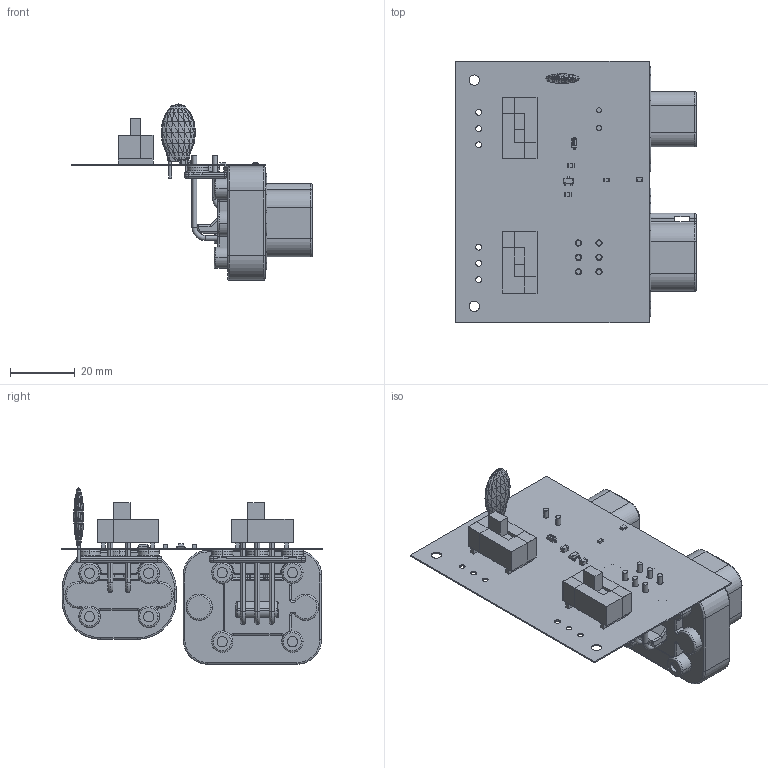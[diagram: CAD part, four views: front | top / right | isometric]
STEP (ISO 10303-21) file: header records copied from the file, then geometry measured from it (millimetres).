
FILE_DESCRIPTION(('Open CASCADE Model'),'2;1');
FILE_NAME('Open CASCADE Shape Model','2026-02-28T13:23:41',('Author'),( 'Open CASCADE'),'Open CASCADE STEP processor 6.8','Open CASCADE 6.8' ,'Unknown');
FILE_SCHEMA(('AUTOMOTIVE_DESIGN { 1 0 10303 214 1 1 1 1 }'));
Products named in the file (1): PCB
Bounding box: 74.42 x 80.77 x 54.6 mm (x, y, z)
Volume: 37119.3 mm3; surface area: 30410.3 mm2
Topology: 25 solids, 483 shells, 1718 faces, 5005 edges, 3825 vertices
Faces by surface type: plane 827, cylinder 528, torus 238, bspline 69, sphere 32, cone 24
Full cylindrical faces by diameter (mm): 0.155 x1, 0.889 x2, 1 x2, 1.6 x2, 1.65 x12, 1.8 x6, 1.906 x6, 3.2 x2
Entity records: 67208 total; most frequent: CARTESIAN_POINT 18461, DIRECTION 9351, ORIENTED_EDGE 8038, EDGE_CURVE 4983, VERTEX_POINT 3825, AXIS2_PLACEMENT_3D 3250, LINE 2851, VECTOR 2851
